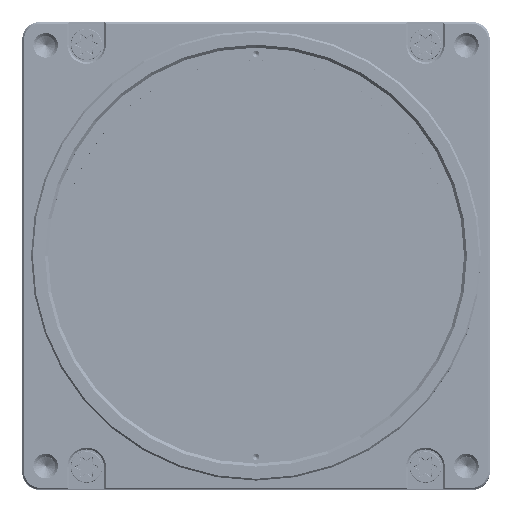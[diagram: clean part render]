
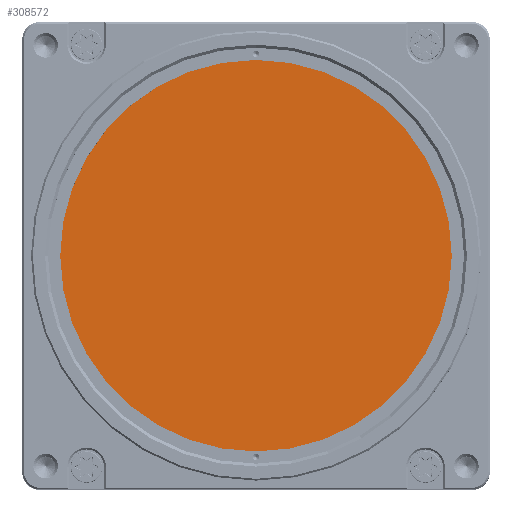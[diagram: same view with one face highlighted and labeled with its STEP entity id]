
A CAD part, top view. The second image highlights one B-rep face of the part: STEP entity #308572.
In plain terms, the highlighted planar face has unit normal (0, 0, 1).
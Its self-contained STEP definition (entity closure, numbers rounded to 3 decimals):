
#60604 = ORIENTED_EDGE ( 'NONE', *, *, #77262, .T. ) ;
#77262 = EDGE_CURVE ( 'NONE', #116270, #116270, #399046, .T. ) ;
#77923 = CARTESIAN_POINT ( 'NONE',  ( 35.3, 0., 1. ) ) ;
#116270 = VERTEX_POINT ( 'NONE', #77923 ) ;
#169518 = DIRECTION ( 'NONE',  ( 0., 0., 1. ) ) ;
#192598 = AXIS2_PLACEMENT_3D ( 'NONE', #194884, #422238, #233048 ) ;
#194884 = CARTESIAN_POINT ( 'NONE',  ( 0., 0., 1. ) ) ;
#205344 = FACE_OUTER_BOUND ( 'NONE', #442403, .T. ) ;
#233048 = DIRECTION ( 'NONE',  ( 1., 0., 0. ) ) ;
#241988 = AXIS2_PLACEMENT_3D ( 'NONE', #351346, #169518, #277208 ) ;
#277208 = DIRECTION ( 'NONE',  ( 1., 0., 0. ) ) ;
#308572 = ADVANCED_FACE ( 'NONE', ( #205344 ), #353754, .T. ) ;
#351346 = CARTESIAN_POINT ( 'NONE',  ( 0., 0., 1. ) ) ;
#353754 = PLANE ( 'NONE',  #241988 ) ;
#399046 = CIRCLE ( 'NONE', #192598, 35.3 ) ;
#422238 = DIRECTION ( 'NONE',  ( 0., 0., 1. ) ) ;
#442403 = EDGE_LOOP ( 'NONE', ( #60604 ) ) ;
